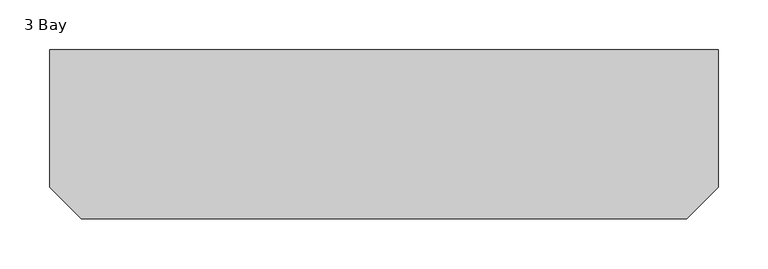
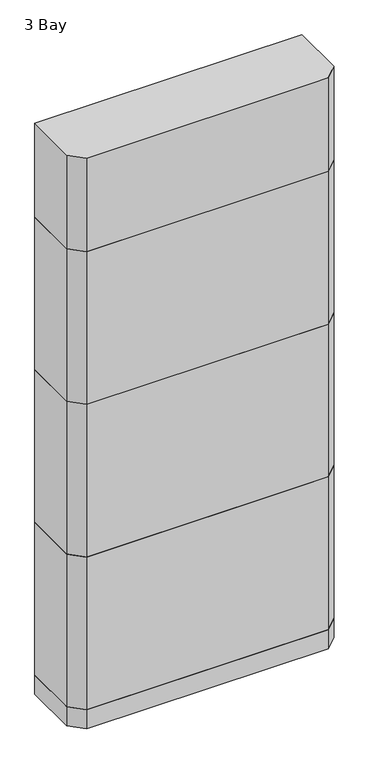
"""IFC4 building model written with IfcOpenShell, lengths in millimetres: proxy geometry, Whole House Battery : 3 Bay."""

from ifc_helpers import new_model, si_unit, frame, origin, origin_with_axes, place, context, project, spatial, polyline, outline, extrude, source, transform, mapped, element, save


def proxy_3_bay_3be3d3e6(model_context):
    return source(origin(), model_context, "Body", "SweptSolid", [
        extrude(outline(polyline([(336.55, 85.09), (336.55, -53.34), (304.8, -85.09), (-304.8, -85.09), (-336.55, -53.34), (-336.55, 85.09), (336.55, 85.09)])), origin_with_axes(), (0.0, 0.0, 1.0), 50.8),
        extrude(outline(polyline([(336.55, 85.09), (336.55, -53.34), (304.8, -85.09), (-304.8, -85.09), (-336.55, -53.34), (-336.55, 85.09), (336.55, 85.09)])), frame((0.0, 0.0, 50.8), z_axis=(0.0, 0.0, 1.0), x_axis=(1.0, 0.0, 0.0)), (0.0, 0.0, 1.0), 406.4),
        extrude(outline(polyline([(336.55, 85.09), (336.55, -53.34), (304.8, -85.09), (-304.8, -85.09), (-336.55, -53.34), (-336.55, 85.09), (336.55, 85.09)])), frame((0.0, 0.0, 1270.0), z_axis=(0.0, 0.0, 1.0), x_axis=(1.0, 0.0, 0.0)), (0.0, 0.0, 1.0), 248.92),
        extrude(outline(polyline([(336.55, 85.09), (336.55, -53.34), (304.8, -85.09), (-304.8, -85.09), (-336.55, -53.34), (-336.55, 85.09), (336.55, 85.09)])), frame((0.0, 0.0, 863.6), z_axis=(0.0, 0.0, 1.0), x_axis=(1.0, 0.0, 0.0)), (0.0, 0.0, 1.0), 406.4),
        extrude(outline(polyline([(336.55, 85.09), (336.55, -53.34), (304.8, -85.09), (-304.8, -85.09), (-336.55, -53.34), (-336.55, 85.09), (336.55, 85.09)])), frame((0.0, 0.0, 457.2), z_axis=(0.0, 0.0, 1.0), x_axis=(1.0, 0.0, 0.0)), (0.0, 0.0, 1.0), 406.4),
    ])


if __name__ == "__main__":
    model = new_model("IFC4")
    model_context = context("Model", 3, world=origin())
    ifc_project = project(units=[si_unit("LENGTHUNIT", "METRE", prefix="MILLI")], contexts=[model_context])
    site = spatial("IfcSite", under=ifc_project)
    building = spatial("IfcBuilding", under=site)
    placement = place(None, origin())
    proxy_3_bay_shape = proxy_3_bay_3be3d3e6(model_context)
    element("IfcBuildingElementProxy", 1, Name="Whole House Battery : 3 Bay", ObjectType="Whole House Battery : 3 Bay", at=placement, inside=building, context=model_context, shape_type="MappedRepresentation", body=[
        mapped(proxy_3_bay_shape, transform((0.0, 0.0, 0.0), x_axis=(1.0, 0.0, 0.0), y_axis=(0.0, 1.0, 0.0), z_axis=(0.0, 0.0, 1.0))),
    ])
    save(model, "model.ifc")
